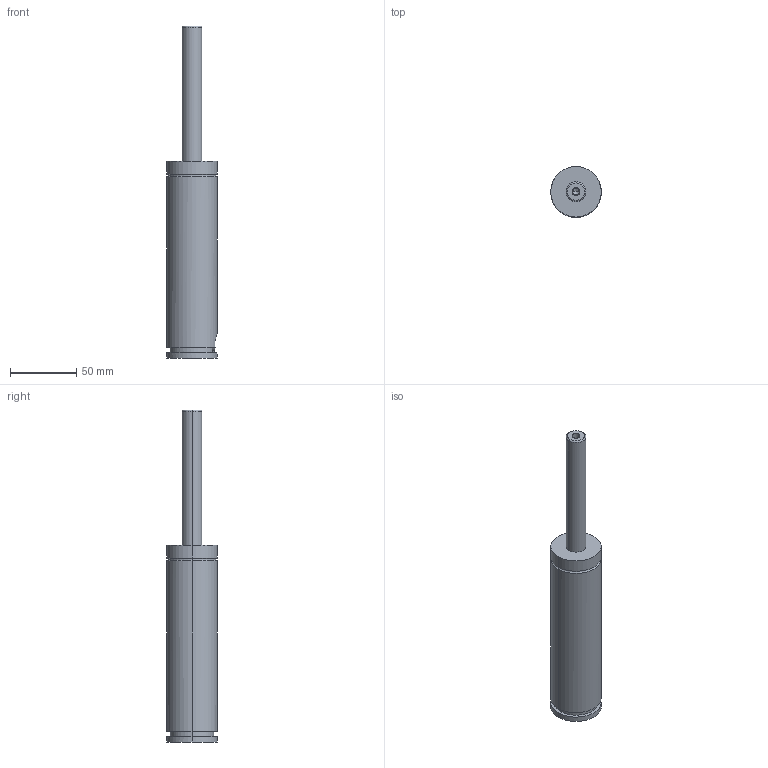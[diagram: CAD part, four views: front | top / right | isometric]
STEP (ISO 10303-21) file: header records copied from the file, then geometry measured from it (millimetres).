
FILE_DESCRIPTION(/* description */ (''),/* implementation_level */ '2;1');
FILE_NAME(/* name */ '3d_gse38-100_03869_r00.stp',/* time_stamp */ '2011-01-10T14:15:20+09:00',/* author */ ('MISUMI'),/* organization */ (''),/* preprocessor_version */ 'ST-DEVELOPER v11',/* originating_system */ 'UGS - NX 5.0',/* authorisation */ '');
FILE_SCHEMA (('CONFIG_CONTROL_DESIGN'));
Length unit declared in the file: millimetre
Products named in the file (1): 3d_gse38-100_03869_r00
Bounding box: 38 x 38 x 250 mm (x, y, z)
Volume: 182802.1 mm3; surface area: 26452.7 mm2
Topology: 1 solids, 1 shells, 57 faces, 125 edges, 79 vertices
Faces by surface type: cylinder 26, plane 21, cone 6, torus 4
Entity records: 1669 total; most frequent: DIRECTION 297, CARTESIAN_POINT 286, ORIENTED_EDGE 246, EDGE_CURVE 123, AXIS2_PLACEMENT_3D 122, VERTEX_POINT 79, EDGE_LOOP 68, CIRCLE 64
